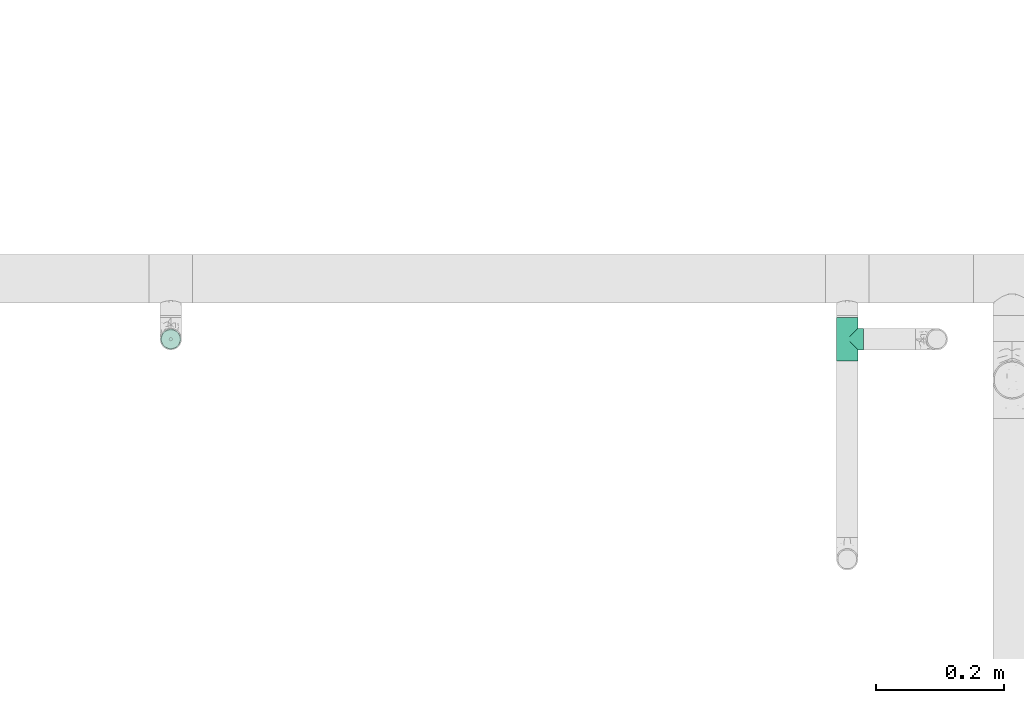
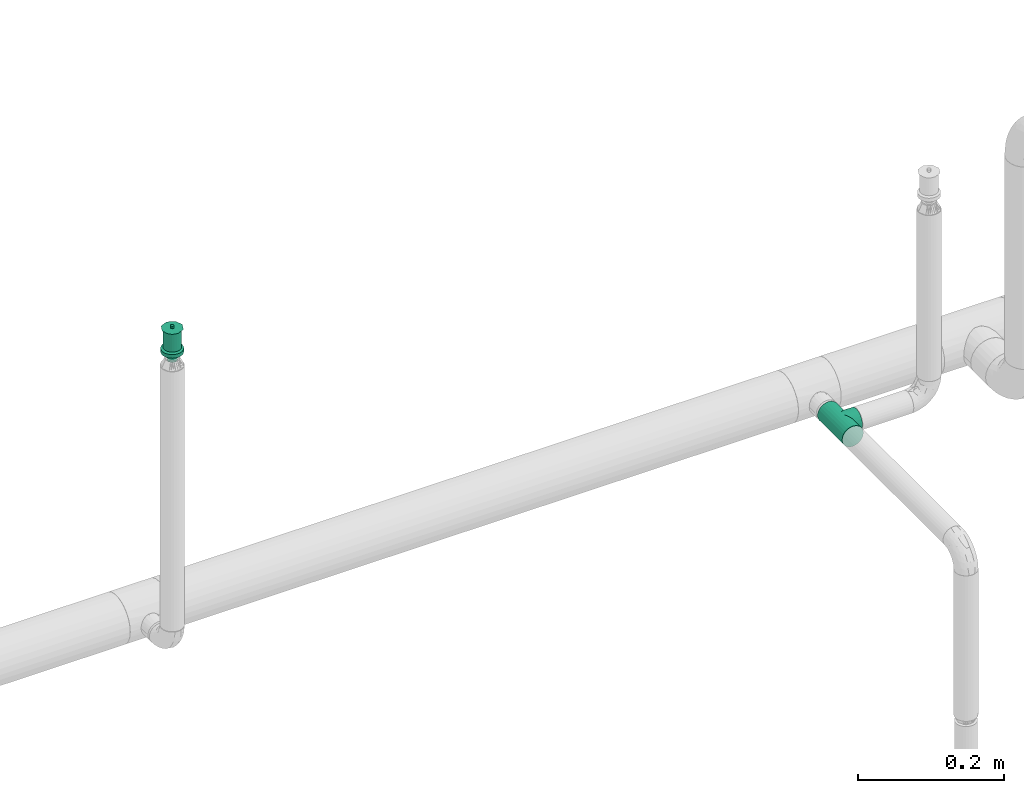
# One storey, part 113 of 157: 1 flow fitting, 1 flow terminal.
"""IFC2X3 building model written with IfcOpenShell, lengths in millimetres."""

from ifc_helpers import new_model, entity, si_unit, converted_unit, derived_unit, direction, frame, origin_with_axes, place, context, subcontext, project, spatial, open_shell, surface_model, source, transform, mapped, type_object, element, save


model = new_model("IFC2X3")

# Units and contexts
model_context = context("Model", 3, precision=0.01, world=frame((0.0, 4.29681676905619e-09, 0.0)), true_north=direction((4.01073788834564e-13, 1.0)))
plan_context = context("Plan", 3, precision=0.01, world=frame((0.0, 4.29681676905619e-09, 0.0)), true_north=direction((4.01073788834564e-13, 1.0)))
body_context = subcontext(model_context, "Body", "Model", "MODEL_VIEW")
ifc_project = project(units=[converted_unit("PLANEANGLEUNIT", "DEGREE", entity("IfcPositiveLengthMeasure", 0.0174532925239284), si_unit("PLANEANGLEUNIT", "RADIAN"), dimensions=[0, 0, 0, 0, 0, 0, 0]), si_unit("AREAUNIT", "SQUARE_METRE"), si_unit("LENGTHUNIT", "METRE", prefix="MILLI"), si_unit("MASSUNIT", "GRAM", prefix="KILO"), si_unit("POWERUNIT", "WATT"), si_unit("PRESSUREUNIT", "PASCAL"), si_unit("FORCEUNIT", "NEWTON", prefix="KILO"), si_unit("ELECTRICCURRENTUNIT", "AMPERE"), si_unit("THERMODYNAMICTEMPERATUREUNIT", "DEGREE_CELSIUS"), si_unit("TIMEUNIT", "SECOND"), si_unit("VOLUMEUNIT", "CUBIC_METRE"), derived_unit("LINEARVELOCITYUNIT", [(si_unit("LENGTHUNIT", "METRE"), 1), (si_unit("TIMEUNIT", "SECOND"), -1)]), derived_unit("VOLUMETRICFLOWRATEUNIT", [(si_unit("VOLUMEUNIT", "CUBIC_METRE"), 1), (si_unit("TIMEUNIT", "SECOND"), -1)]), derived_unit("THERMALTRANSMITTANCEUNIT", [(si_unit("POWERUNIT", "WATT"), 1), (si_unit("THERMODYNAMICTEMPERATUREUNIT", "KELVIN"), -1), (si_unit("AREAUNIT", "SQUARE_METRE"), -1)])], contexts=[model_context, plan_context])

# Site, building, storey
site_placement = place(None, frame((0.0, -4.29681676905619e-09, 0.0), z_axis=(0.0, 0.0, 1.0), x_axis=(1.0, 0.0, 0.0)))
site = spatial("IfcSite", under=ifc_project, at=site_placement, CompositionType="ELEMENT")
building_placement = place(site_placement, frame((0.0, 4.29681676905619e-09, 0.0), z_axis=(0.0, 0.0, 1.0), x_axis=(1.0, 0.0, 0.0)))
building = spatial("IfcBuilding", under=site, at=building_placement, Name="mc-building", CompositionType="ELEMENT")
storey_placement = place(building_placement, frame((0.0, 0.0, 204000.0), z_axis=(0.0, 0.0, 1.0), x_axis=(1.0, 0.0, 0.0)))
storey = spatial("IfcBuildingStorey", under=building, at=storey_placement, Name="Nivå D", CompositionType="ELEMENT", Elevation=204000.0)

# Flow fitting
pipe_fitting_type = type_object("IfcPipeFittingType", Name="magi_pipe_fe_tee_centric_90_NOR", PredefinedType="JUNCTION")
shared_shape_1 = source(origin_with_axes(), body_context, "Body", "SurfaceModel", [
    surface_model("IfcShellBasedSurfaceModel", [(-33.8, 4.37404, -16.32415), (-33.8, 0.0, -16.9), (-33.8, 16.32415, -4.37404), (-33.8, 8.45, -14.63583), (-33.8, 11.9501, -11.9501), (-33.8, 14.63583, -8.45), (-33.8, -16.9, 0.0), (-33.8, -11.9501, -11.9501), (-33.8, -14.63583, -8.45), (-33.8, -8.45, -14.63583), (-33.8, -4.37404, -16.32415), (-33.8, -16.32415, -4.37404), (-33.8, 14.63583, 8.45), (-33.8, 16.32415, 4.37404), (-33.8, -8.45, 14.63583), (-33.8, 8.45, 14.63583), (-33.8, 11.9501, 11.9501), (-33.8, 4.37404, 16.32415), (-33.8, 0.0, 16.9), (-33.8, -11.9501, 11.9501), (-33.8, -14.63583, 8.45), (-33.8, -16.32415, 4.37404), (-33.8, -4.37404, 16.32415), (-33.8, 16.9, 0.0), (33.8, 4.37404, -16.32415), (33.8, -16.9, 0.0), (33.8, 0.0, -16.9), (33.8, 14.63583, -8.45), (33.8, 8.45, -14.63583), (33.8, 16.32415, -4.37404), (33.8, 11.9501, -11.9501), (33.8, -16.32415, 4.37404), (33.8, -8.45, -14.63583), (33.8, -4.37404, -16.32415), (33.8, -11.9501, -11.9501), (33.8, -14.63583, -8.45), (33.8, -16.32415, -4.37404), (33.8, 16.32415, 4.37404), (33.8, 8.45, 14.63583), (33.8, 14.63583, 8.45), (33.8, 11.9501, 11.9501), (33.8, -8.45, 14.63583), (33.8, 4.37404, 16.32415), (33.8, -14.63583, 8.45), (33.8, -11.9501, 11.9501), (33.8, 0.0, 16.9), (33.8, -4.37404, 16.32415), (33.8, 16.9, 0.0), (16.28698, -16.28698, 4.51047), (16.9, -16.9, 0.0), (14.62704, -14.62704, 8.4652), (9.47213, -9.47213, 13.99602), (12.26343, -12.26343, 11.62834), (-16.9, -16.9, 0.0), (-16.28698, -16.28698, 4.51047), (-14.62704, -14.62704, 8.4652), (-12.26343, -12.26343, 11.62834), (-9.47213, -9.47213, 13.99602), (-6.42894, -6.42894, 15.62942), (6.42894, -6.42894, 15.62942), (3.24522, -3.24522, 16.58549), (0.0, 0.0, 16.9), (-3.24522, -3.24522, 16.58549), (3.24522, -3.24522, -16.58549), (0.0, 0.0, -16.9), (-3.24522, -3.24522, -16.58549), (-6.42894, -6.42894, -15.62942), (6.42894, -6.42894, -15.62942), (9.47213, -9.47213, -13.99602), (12.26343, -12.26343, -11.62834), (14.62704, -14.62704, -8.4652), (16.28698, -16.28698, -4.51047), (-9.47213, -9.47213, -13.99602), (-12.26343, -12.26343, -11.62834), (-16.28698, -16.28698, -4.51047), (-14.62704, -14.62704, -8.4652), (4.37404, -25.35, -16.32415), (-16.9, -25.35, 0.0), (0.0, -25.35, -16.9), (14.63583, -25.35, -8.45), (8.45, -25.35, -14.63583), (16.32415, -25.35, -4.37404), (11.9501, -25.35, -11.9501), (-11.9501, -25.35, -11.9501), (-8.45, -25.35, -14.63583), (-4.37404, -25.35, -16.32415), (-14.63583, -25.35, -8.45), (-16.32415, -25.35, -4.37404), (16.9, -25.35, 0.0), (8.45, -25.35, 14.63583), (16.32415, -25.35, 4.37404), (14.63583, -25.35, 8.45), (-8.45, -25.35, 14.63583), (11.9501, -25.35, 11.9501), (4.37404, -25.35, 16.32415), (-16.32415, -25.35, 4.37404), (-11.9501, -25.35, 11.9501), (-14.63583, -25.35, 8.45), (0.0, -25.35, 16.9), (-4.37404, -25.35, 16.32415)], [open_shell([[[0, 1, 2]], [[3, 0, 4]], [[0, 2, 5]], [[4, 0, 5]], [[6, 2, 1]], [[7, 8, 9]], [[1, 10, 9]], [[11, 6, 8]], [[1, 9, 8]], [[1, 8, 6]], [[6, 12, 2]], [[12, 13, 2]], [[14, 12, 6]], [[12, 14, 15]], [[16, 12, 15]], [[17, 15, 18]], [[19, 14, 20]], [[21, 20, 14]], [[22, 18, 14]], [[14, 6, 21]], [[14, 18, 15]], [[23, 2, 13]], [[24, 25, 26]], [[27, 24, 28]], [[27, 29, 24]], [[27, 28, 30]], [[31, 25, 24]], [[26, 32, 33]], [[26, 34, 32]], [[35, 25, 36]], [[35, 34, 26]], [[25, 35, 26]], [[24, 29, 31]], [[29, 37, 38]], [[38, 37, 39]], [[38, 31, 29]], [[38, 39, 40]], [[41, 38, 42]], [[43, 41, 44]], [[41, 43, 31]], [[41, 45, 46]], [[41, 31, 38]], [[42, 45, 41]], [[29, 47, 37]], [[31, 43, 48]], [[25, 31, 49]], [[49, 31, 48]], [[43, 50, 48]], [[44, 41, 51]], [[50, 43, 52]], [[51, 52, 44]], [[52, 43, 44]], [[53, 54, 21]], [[53, 21, 6]], [[21, 54, 20]], [[54, 55, 20]], [[56, 57, 19]], [[19, 20, 56]], [[19, 57, 14]], [[56, 20, 55]], [[14, 57, 58]], [[51, 41, 59]], [[60, 45, 61]], [[59, 46, 60]], [[46, 59, 41]], [[60, 46, 45]], [[61, 45, 42]], [[39, 37, 13]], [[16, 38, 40]], [[12, 40, 39]], [[42, 38, 15]], [[23, 37, 47]], [[62, 61, 18]], [[62, 22, 58]], [[22, 62, 18]], [[58, 22, 14]], [[61, 17, 18]], [[42, 17, 61]], [[15, 17, 42]], [[15, 38, 16]], [[12, 16, 40]], [[13, 12, 39]], [[37, 23, 13]], [[5, 27, 30]], [[23, 47, 29]], [[30, 28, 3]], [[27, 2, 29]], [[26, 33, 63]], [[26, 64, 24]], [[64, 26, 63]], [[28, 24, 0]], [[64, 0, 24]], [[4, 30, 3]], [[2, 27, 5]], [[5, 30, 4]], [[2, 23, 29]], [[65, 66, 10]], [[1, 0, 64]], [[1, 65, 10]], [[66, 9, 10]], [[0, 3, 28]], [[1, 64, 65]], [[63, 33, 67]], [[32, 34, 68]], [[69, 68, 34]], [[35, 70, 69]], [[69, 34, 35]], [[32, 68, 67]], [[36, 25, 49]], [[36, 71, 35]], [[71, 36, 49]], [[35, 71, 70]], [[72, 9, 66]], [[72, 7, 9]], [[7, 72, 73]], [[7, 73, 8]], [[74, 53, 11]], [[75, 74, 8]], [[74, 11, 8]], [[11, 53, 6]], [[75, 8, 73]], [[32, 67, 33]], [[76, 77, 78]], [[79, 76, 80]], [[79, 81, 76]], [[79, 80, 82]], [[77, 76, 81]], [[78, 83, 84]], [[84, 85, 78]], [[86, 77, 87]], [[83, 78, 86]], [[77, 86, 78]], [[81, 88, 77]], [[89, 88, 90]], [[89, 90, 91]], [[92, 77, 89]], [[89, 91, 93]], [[92, 89, 94]], [[95, 96, 97]], [[96, 95, 92]], [[92, 98, 99]], [[95, 77, 92]], [[94, 98, 92]], [[89, 77, 88]], [[77, 95, 53]], [[54, 53, 95]], [[97, 96, 56]], [[96, 92, 57]], [[95, 97, 54]], [[58, 92, 99]], [[55, 54, 97]], [[56, 55, 97]], [[58, 57, 92]], [[98, 61, 62]], [[58, 99, 62]], [[56, 96, 57]], [[62, 99, 98]], [[94, 60, 98]], [[89, 59, 94]], [[91, 90, 48]], [[52, 93, 91]], [[93, 51, 89]], [[49, 90, 88]], [[59, 60, 94]], [[51, 59, 89]], [[49, 48, 90]], [[50, 52, 91]], [[48, 50, 91]], [[51, 93, 52]], [[98, 60, 61]], [[88, 81, 49]], [[71, 49, 81]], [[79, 82, 69]], [[82, 80, 68]], [[81, 79, 71]], [[67, 80, 76]], [[70, 71, 79]], [[69, 70, 79]], [[67, 68, 80]], [[78, 64, 63]], [[67, 76, 63]], [[69, 82, 68]], [[63, 76, 78]], [[85, 65, 78]], [[84, 66, 85]], [[86, 87, 74]], [[86, 73, 83]], [[72, 84, 83]], [[53, 87, 77]], [[66, 65, 85]], [[72, 66, 84]], [[53, 74, 87]], [[75, 73, 86]], [[74, 75, 86]], [[72, 83, 73]], [[78, 65, 64]]])]),
])
flow_fitting_placement = place(storey_placement, frame((527499.97687, 413944.735, 2690.0), z_axis=(0.0, 0.0, 1.0), x_axis=(0.0, 1.0, 0.0)))
element("IfcFlowFitting", 1, at=flow_fitting_placement, inside=storey, type_object=pipe_fitting_type, Name="magi_pipe_fe_tee_centric_90_NOR", context=body_context, shape_type="MappedRepresentation", body=[
    mapped(shared_shape_1, transform((0.0, 0.0, 0.0), scale=1.0)),
])

# Flow terminal
fire_suppression_terminal_type = type_object("IfcFireSuppressionTerminalType", Name="68DGR-STD-STÅENDE", PredefinedType="NOTDEFINED")
shared_shape_2 = source(origin_with_axes(), body_context, "Body", "SurfaceModel", [
    surface_model("IfcShellBasedSurfaceModel", [(3.36465, -12.55704, 51.0), (6.5, -11.25833, 51.0), (9.19239, -9.19239, 51.0), (12.55704, -3.36465, 51.0), (-11.25833, -6.5, 51.0), (11.25833, -6.5, 51.0), (-13.0, 0.0, 51.0), (0.0, -13.0, 51.0), (-6.5, -11.25833, 51.0), (-3.36465, -12.55704, 51.0), (-9.19239, -9.19239, 51.0), (-12.55704, -3.36465, 51.0), (13.0, 0.0, 51.0), (12.55704, 3.36465, 51.0), (11.25833, 6.5, 51.0), (9.19239, 9.19239, 51.0), (6.5, 11.25833, 51.0), (3.36465, 12.55704, 51.0), (0.0, 13.0, 51.0), (-3.36465, 12.55704, 51.0), (-12.55704, 3.36465, 51.0), (-9.19239, 9.19239, 51.0), (-11.25833, 6.5, 51.0), (-6.5, 11.25833, 51.0), (0.0, 13.0, 21.14766), (3.36465, 12.55704, 21.14766), (6.5, 11.25833, 21.14766), (-3.36465, 12.55704, 21.14766), (9.19239, 9.19239, 21.14766), (11.25833, 6.5, 21.14766), (12.55704, 3.36465, 21.14766), (-12.55704, 3.36465, 21.14766), (-11.25833, -6.5, 21.14766), (-9.19239, 9.19239, 21.14766), (-6.5, 11.25833, 21.14766), (-11.25833, 6.5, 21.14766), (-13.0, 0.0, 21.14766), (12.55704, -3.36465, 21.14766), (9.19239, -9.19239, 21.14766), (11.25833, -6.5, 21.14766), (6.5, -11.25833, 21.14766), (3.36465, -12.55704, 21.14766), (-6.5, -11.25833, 21.14766), (-9.19239, -9.19239, 21.14766), (-12.55704, -3.36465, 21.14766), (0.0, -13.0, 21.14766), (-3.36465, -12.55704, 21.14766), (13.0, 0.0, 21.14766), (7.24444, -1.94114, 0.1), (1.94114, -7.24444, 0.1), (3.75, -6.49519, 0.1), (5.3033, -5.3033, 0.1), (-5.3033, -5.3033, 0.1), (6.49519, -3.75, 0.1), (5.3033, 5.3033, 0.1), (0.0, -7.5, 0.1), (-3.75, -6.49519, 0.1), (-1.94114, -7.24444, 0.1), (-7.24444, -1.94114, 0.1), (-6.49519, -3.75, 0.1), (-7.24444, 1.94114, 0.1), (7.5, 0.0, 0.1), (6.49519, 3.75, 0.1), (-6.49519, 3.75, 0.1), (1.94114, 7.24444, 0.1), (0.0, 7.5, 0.1), (3.75, 6.49519, 0.1), (-7.5, 0.0, 0.1), (-5.3033, 5.3033, 0.1), (-1.94114, 7.24444, 0.1), (-3.75, 6.49519, 0.1), (7.24444, 1.94114, 0.1), (1.94114, 7.24444, -0.1), (-6.49519, 3.75, -0.1), (0.0, 7.5, -0.1), (5.3033, 5.3033, -0.1), (3.75, 6.49519, -0.1), (6.49519, 3.75, -0.1), (7.24444, 1.94114, -0.1), (-1.94114, 7.24444, -0.1), (-5.3033, 5.3033, -0.1), (-3.75, 6.49519, -0.1), (-7.24444, 1.94114, -0.1), (-7.24444, -1.94114, -0.1), (-7.5, 0.0, -0.1), (7.5, 0.0, -0.1), (7.24444, -1.94114, -0.1), (-5.3033, -5.3033, -0.1), (1.94114, -7.24444, -0.1), (6.49519, -3.75, -0.1), (5.3033, -5.3033, -0.1), (3.75, -6.49519, -0.1), (-6.49519, -3.75, -0.1), (-3.75, -6.49519, -0.1), (0.0, -7.5, -0.1), (-1.94114, -7.24444, -0.1), (0.0, -2.5, 51.0), (-2.5, 0.0, 51.0), (0.0, 2.5, 51.0), (2.5, 0.0, 51.0), (0.0, -16.0, 53.0), (11.31371, -11.31371, 53.0), (-11.31371, -11.31371, 53.0), (-16.0, 0.0, 53.0), (16.0, 0.0, 53.0), (11.31371, 11.31371, 53.0), (0.0, 16.0, 53.0), (-11.31371, 11.31371, 53.0), (1.25, -2.16506, 57.0), (0.0, -2.5, 57.0), (0.64705, -2.41481, 57.0), (2.41481, -0.64705, 57.0), (1.76777, -1.76777, 57.0), (-2.41481, -0.64705, 57.0), (-2.5, 0.0, 57.0), (2.16506, -1.25, 57.0), (-1.25, -2.16506, 57.0), (-0.64705, -2.41481, 57.0), (-1.76777, -1.76777, 57.0), (-2.16506, -1.25, 57.0), (2.5, 0.0, 57.0), (2.41481, 0.64705, 57.0), (2.16506, 1.25, 57.0), (1.76777, 1.76777, 57.0), (0.64705, 2.41481, 57.0), (1.25, 2.16506, 57.0), (-1.76777, 1.76777, 57.0), (0.0, 2.5, 57.0), (-2.16506, 1.25, 57.0), (-2.41481, 0.64705, 57.0), (-0.64705, 2.41481, 57.0), (-1.25, 2.16506, 57.0), (1.25, 2.16506, 51.0), (1.76777, 1.76777, 51.0), (1.15, 1.99186, 51.0), (0.59528, 2.22163, 51.0), (0.64705, 2.41481, 51.0), (0.0, 2.3, 51.0), (1.62635, 1.62635, 51.0), (2.41481, 0.64705, 51.0), (2.3, 0.0, 51.0), (2.22163, 0.59528, 51.0), (2.16506, 1.25, 51.0), (1.99186, 1.15, 51.0), (-0.59528, 2.22163, 51.0), (-0.64705, 2.41481, 51.0), (-1.15, 1.99186, 51.0), (-1.76777, 1.76777, 51.0), (-1.25, 2.16506, 51.0), (-1.62635, 1.62635, 51.0), (-1.99186, 1.15, 51.0), (-2.16506, 1.25, 51.0), (-2.22163, 0.59528, 51.0), (-2.41481, 0.64705, 51.0), (-2.3, 0.0, 51.0), (2.41481, -0.64705, 51.0), (2.22163, -0.59528, 51.0), (1.99186, -1.15, 51.0), (2.16506, -1.25, 51.0), (1.62635, -1.62635, 51.0), (1.76777, -1.76777, 51.0), (1.25, -2.16506, 51.0), (1.15, -1.99186, 51.0), (0.59528, -2.22163, 51.0), (0.64705, -2.41481, 51.0), (0.0, -2.3, 51.0), (-2.16506, -1.25, 51.0), (-1.99186, -1.15, 51.0), (-1.76777, -1.76777, 51.0), (-1.62635, -1.62635, 51.0), (-2.41481, -0.64705, 51.0), (-2.22163, -0.59528, 51.0), (-0.59528, -2.22163, 51.0), (-0.64705, -2.41481, 51.0), (-1.15, -1.99186, 51.0), (-1.25, -2.16506, 51.0), (1.62635, -1.62635, 56.8), (1.15, -1.99186, 56.8), (0.59528, -2.22163, 56.8), (0.0, -2.3, 56.8), (2.22163, 0.59528, 56.8), (1.99186, -1.15, 56.8), (2.22163, -0.59528, 56.8), (-0.59528, -2.22163, 56.8), (-1.15, -1.99186, 56.8), (-1.62635, -1.62635, 56.8), (-1.99186, -1.15, 56.8), (-2.22163, -0.59528, 56.8), (-1.99186, 1.15, 56.8), (2.3, 0.0, 56.8), (1.62635, 1.62635, 56.8), (1.99186, 1.15, 56.8), (1.15, 1.99186, 56.8), (0.0, 2.3, 56.8), (0.59528, 2.22163, 56.8), (-2.22163, 0.59528, 56.8), (-2.3, 0.0, 56.8), (-1.15, 1.99186, 56.8), (-0.59528, 2.22163, 56.8), (-1.62635, 1.62635, 56.8), (4.1411, -15.45481, 19.0), (8.0, -13.85641, 19.0), (11.31371, -11.31371, 19.0), (-8.0, -13.85641, 19.0), (15.45481, -4.1411, 19.0), (16.0, 0.0, 19.0), (13.85641, -8.0, 19.0), (0.0, -16.0, 19.0), (-4.1411, -15.45481, 19.0), (-13.85641, -8.0, 19.0), (-11.31371, -11.31371, 19.0), (-15.45481, -4.1411, 19.0), (15.45481, 4.1411, 19.0), (13.85641, 8.0, 19.0), (11.31371, 11.31371, 19.0), (-4.1411, 15.45481, 19.0), (8.0, 13.85641, 19.0), (4.1411, 15.45481, 19.0), (0.0, 16.0, 19.0), (-13.85641, 8.0, 19.0), (-15.45481, 4.1411, 19.0), (-16.0, 0.0, 19.0), (-11.31371, 11.31371, 19.0), (-8.0, 13.85641, 19.0), (0.0, 16.0, 13.0), (4.1411, 15.45481, 13.0), (8.0, 13.85641, 13.0), (-4.1411, 15.45481, 13.0), (11.31371, 11.31371, 13.0), (13.85641, 8.0, 13.0), (15.45481, 4.1411, 13.0), (-15.45481, -4.1411, 13.0), (-11.31371, 11.31371, 13.0), (-8.0, 13.85641, 13.0), (-13.85641, 8.0, 13.0), (-15.45481, 4.1411, 13.0), (-16.0, 0.0, 13.0), (4.1411, -15.45481, 13.0), (16.0, 0.0, 13.0), (15.45481, -4.1411, 13.0), (13.85641, -8.0, 13.0), (11.31371, -11.31371, 13.0), (8.0, -13.85641, 13.0), (-8.0, -13.85641, 13.0), (-13.85641, -8.0, 13.0), (-11.31371, -11.31371, 13.0), (0.0, -16.0, 13.0), (-4.1411, -15.45481, 13.0), (7.24444, -1.94114, 13.0), (1.94114, -7.24444, 13.0), (3.75, -6.49519, 13.0), (5.3033, -5.3033, 13.0), (-5.3033, -5.3033, 13.0), (6.49519, -3.75, 13.0), (5.3033, 5.3033, 13.0), (0.0, -7.5, 13.0), (-3.75, -6.49519, 13.0), (-1.94114, -7.24444, 13.0), (-7.24444, -1.94114, 13.0), (-6.49519, -3.75, 13.0), (-7.24444, 1.94114, 13.0), (7.5, 0.0, 13.0), (6.49519, 3.75, 13.0), (-6.49519, 3.75, 13.0), (1.94114, 7.24444, 13.0), (0.0, 7.5, 13.0), (3.75, 6.49519, 13.0), (-7.5, 0.0, 13.0), (-5.3033, 5.3033, 13.0), (-1.94114, 7.24444, 13.0), (-3.75, 6.49519, 13.0), (7.24444, 1.94114, 13.0), (3.75, 6.49519, 0.0), (5.3033, 5.3033, 0.0), (3.65, 6.32199, 0.0), (1.88938, 7.05126, 0.0), (0.0, 7.3, 0.0), (1.94114, 7.24444, 0.0), (0.0, 7.5, 0.0), (5.16188, 5.16188, 0.0), (7.24444, 1.94114, 0.0), (7.3, 0.0, 0.0), (7.05126, 1.88938, 0.0), (7.5, 0.0, 0.0), (6.49519, 3.75, 0.0), (6.32199, 3.65, 0.0), (-1.88938, 7.05126, 0.0), (-1.94114, 7.24444, 0.0), (-3.65, 6.32199, 0.0), (-5.3033, 5.3033, 0.0), (-3.75, 6.49519, 0.0), (-5.16188, 5.16188, 0.0), (-6.32199, 3.65, 0.0), (-6.49519, 3.75, 0.0), (-7.05126, 1.88938, 0.0), (-7.24444, 1.94114, 0.0), (-7.3, 0.0, 0.0), (-7.5, 0.0, 0.0), (7.24444, -1.94114, 0.0), (7.05126, -1.88938, 0.0), (6.32199, -3.65, 0.0), (6.49519, -3.75, 0.0), (5.16188, -5.16188, 0.0), (5.3033, -5.3033, 0.0), (3.75, -6.49519, 0.0), (3.65, -6.32199, 0.0), (1.88938, -7.05126, 0.0), (1.94114, -7.24444, 0.0), (0.0, -7.3, 0.0), (0.0, -7.5, 0.0), (-6.49519, -3.75, 0.0), (-6.32199, -3.65, 0.0), (-5.3033, -5.3033, 0.0), (-5.16188, -5.16188, 0.0), (-7.24444, -1.94114, 0.0), (-7.05126, -1.88938, 0.0), (-1.88938, -7.05126, 0.0), (-1.94114, -7.24444, 0.0), (-3.65, -6.32199, 0.0), (-3.75, -6.49519, 0.0), (1.88938, -7.05126, 12.8), (0.0, -7.3, 12.8), (3.65, -6.32199, 12.8), (5.16188, -5.16188, 12.8), (6.32199, -3.65, 12.8), (7.05126, 1.88938, 12.8), (7.05126, -1.88938, 12.8), (-5.16188, -5.16188, 12.8), (-1.88938, -7.05126, 12.8), (-3.65, -6.32199, 12.8), (-6.32199, -3.65, 12.8), (-7.05126, -1.88938, 12.8), (0.0, 7.3, 12.8), (7.3, 0.0, 12.8), (6.32199, 3.65, 12.8), (5.16188, 5.16188, 12.8), (3.65, 6.32199, 12.8), (1.88938, 7.05126, 12.8), (-6.32199, 3.65, 12.8), (-7.05126, 1.88938, 12.8), (-7.3, 0.0, 12.8), (-3.65, 6.32199, 12.8), (-1.88938, 7.05126, 12.8), (-5.16188, 5.16188, 12.8)], [open_shell([[[0, 1, 2]], [[0, 2, 3]], [[0, 3, 4]], [[3, 2, 5]], [[6, 4, 3]], [[7, 8, 9]], [[7, 0, 8]], [[8, 4, 10]], [[0, 4, 8]], [[4, 6, 11]], [[6, 3, 12]], [[13, 14, 15]], [[6, 13, 15]], [[16, 17, 18]], [[15, 16, 19]], [[18, 19, 16]], [[20, 21, 22]], [[20, 6, 15]], [[21, 19, 23]], [[19, 21, 20]], [[15, 19, 20]], [[13, 6, 12]], [[24, 25, 26]], [[27, 24, 26]], [[28, 29, 30]], [[26, 28, 31]], [[28, 32, 31]], [[27, 33, 34]], [[33, 27, 31]], [[33, 31, 35]], [[27, 26, 31]], [[31, 32, 36]], [[32, 28, 30]], [[32, 30, 37]], [[38, 37, 39]], [[38, 40, 41]], [[38, 41, 37]], [[32, 37, 41]], [[32, 42, 43]], [[44, 36, 32]], [[42, 45, 46]], [[42, 32, 41]], [[45, 42, 41]], [[30, 47, 37]], [[4, 32, 43]], [[8, 42, 46]], [[43, 42, 10]], [[9, 46, 45]], [[36, 11, 6]], [[11, 36, 44]], [[11, 44, 4]], [[44, 32, 4]], [[43, 10, 4]], [[8, 10, 42]], [[46, 9, 8]], [[45, 7, 9]], [[0, 41, 40]], [[38, 1, 40]], [[5, 39, 37]], [[38, 39, 2]], [[3, 37, 47]], [[41, 0, 7]], [[40, 1, 0]], [[38, 2, 1]], [[39, 5, 2]], [[3, 5, 37]], [[47, 12, 3]], [[41, 7, 45]], [[30, 13, 47]], [[29, 14, 30]], [[25, 24, 17]], [[15, 29, 28]], [[30, 14, 13]], [[13, 12, 47]], [[16, 26, 17]], [[16, 15, 28]], [[26, 25, 17]], [[15, 14, 29]], [[28, 26, 16]], [[24, 18, 17]], [[19, 27, 34]], [[33, 23, 34]], [[22, 35, 31]], [[33, 35, 21]], [[20, 31, 36]], [[27, 19, 18]], [[34, 23, 19]], [[33, 21, 23]], [[35, 22, 21]], [[20, 22, 31]], [[36, 6, 20]], [[27, 18, 24]], [[48, 49, 50]], [[48, 50, 51]], [[49, 48, 52]], [[48, 51, 53]], [[54, 52, 48]], [[55, 56, 57]], [[56, 55, 52]], [[52, 58, 59]], [[52, 55, 49]], [[52, 60, 58]], [[54, 48, 61]], [[62, 54, 61]], [[54, 63, 52]], [[64, 65, 54]], [[64, 54, 66]], [[63, 54, 65]], [[63, 60, 52]], [[67, 58, 60]], [[68, 69, 70]], [[69, 68, 63]], [[69, 63, 65]], [[71, 62, 61]], [[72, 73, 74]], [[75, 72, 76]], [[75, 77, 78]], [[72, 75, 73]], [[78, 73, 75]], [[79, 80, 81]], [[80, 79, 73]], [[74, 73, 79]], [[78, 82, 73]], [[82, 83, 84]], [[82, 78, 85]], [[86, 87, 85]], [[88, 86, 89]], [[90, 91, 88]], [[90, 88, 89]], [[87, 86, 88]], [[83, 87, 92]], [[83, 85, 87]], [[93, 94, 95]], [[94, 93, 87]], [[88, 94, 87]], [[85, 83, 82]], [[83, 58, 84]], [[92, 59, 83]], [[56, 87, 93]], [[92, 87, 52]], [[57, 93, 95]], [[83, 59, 58]], [[58, 67, 84]], [[57, 56, 93]], [[52, 87, 56]], [[52, 59, 92]], [[55, 57, 95]], [[95, 94, 55]], [[88, 49, 94]], [[91, 50, 88]], [[53, 90, 89]], [[91, 90, 51]], [[48, 89, 86]], [[91, 51, 50]], [[50, 49, 88]], [[61, 48, 86]], [[53, 89, 48]], [[53, 51, 90]], [[85, 61, 86]], [[94, 49, 55]], [[78, 71, 85]], [[77, 62, 78]], [[66, 75, 76]], [[77, 75, 54]], [[64, 76, 72]], [[78, 62, 71]], [[71, 61, 85]], [[64, 66, 76]], [[54, 75, 66]], [[54, 62, 77]], [[65, 64, 72]], [[72, 74, 65]], [[79, 69, 74]], [[81, 70, 79]], [[63, 80, 73]], [[81, 80, 68]], [[60, 73, 82]], [[81, 68, 70]], [[70, 69, 79]], [[67, 60, 82]], [[63, 73, 60]], [[63, 68, 80]], [[84, 67, 82]], [[74, 69, 65]], [[96, 97, 98]], [[98, 99, 96]], [[100, 101, 102]], [[103, 102, 101]], [[101, 104, 103]], [[104, 105, 106]], [[107, 103, 106]], [[106, 103, 104]], [[99, 98, 105]], [[105, 104, 99]], [[98, 106, 105]], [[98, 107, 106]], [[107, 98, 97]], [[103, 107, 97]], [[97, 96, 102]], [[102, 103, 97]], [[96, 100, 102]], [[96, 101, 100]], [[101, 96, 99]], [[104, 101, 99]], [[108, 109, 110]], [[111, 108, 112]], [[113, 108, 114]], [[111, 112, 115]], [[108, 111, 114]], [[109, 116, 117]], [[116, 109, 118]], [[118, 113, 119]], [[118, 109, 108]], [[108, 113, 118]], [[111, 120, 114]], [[121, 122, 123]], [[114, 121, 123]], [[114, 123, 124]], [[124, 123, 125]], [[126, 124, 127]], [[124, 128, 129]], [[129, 114, 124]], [[126, 130, 131]], [[128, 124, 126]], [[130, 126, 127]], [[121, 114, 120]], [[132, 133, 134]], [[132, 134, 135]], [[136, 135, 137]], [[135, 136, 132]], [[136, 137, 98]], [[134, 133, 138]], [[139, 140, 141]], [[140, 139, 99]], [[139, 141, 142]], [[138, 142, 143]], [[142, 138, 133]], [[143, 142, 141]], [[98, 144, 145]], [[98, 137, 144]], [[145, 144, 146]], [[147, 148, 149]], [[146, 148, 145]], [[149, 148, 146]], [[150, 151, 147]], [[151, 150, 152]], [[150, 147, 149]], [[153, 152, 154]], [[152, 153, 151]], [[153, 154, 97]], [[99, 155, 156]], [[156, 155, 157]], [[157, 158, 159]], [[158, 157, 155]], [[159, 158, 160]], [[160, 161, 162]], [[162, 161, 163]], [[163, 164, 165]], [[164, 163, 161]], [[165, 164, 96]], [[162, 159, 160]], [[166, 167, 168]], [[168, 167, 169]], [[167, 166, 170]], [[97, 171, 170]], [[170, 171, 167]], [[97, 154, 171]], [[172, 96, 173]], [[172, 173, 174]], [[169, 175, 168]], [[175, 169, 174]], [[175, 174, 173]], [[165, 96, 172]], [[156, 140, 99]], [[170, 113, 97]], [[166, 119, 170]], [[116, 168, 175]], [[166, 168, 118]], [[117, 175, 173]], [[170, 119, 113]], [[113, 114, 97]], [[117, 116, 175]], [[118, 168, 116]], [[118, 119, 166]], [[109, 117, 173]], [[173, 96, 109]], [[164, 110, 96]], [[161, 108, 164]], [[115, 160, 158]], [[161, 160, 112]], [[111, 158, 155]], [[161, 112, 108]], [[108, 110, 164]], [[120, 111, 155]], [[115, 158, 111]], [[115, 112, 160]], [[99, 120, 155]], [[96, 110, 109]], [[139, 121, 99]], [[142, 122, 139]], [[125, 133, 132]], [[142, 133, 123]], [[124, 132, 136]], [[139, 122, 121]], [[121, 120, 99]], [[124, 125, 132]], [[123, 133, 125]], [[123, 122, 142]], [[127, 124, 136]], [[136, 98, 127]], [[145, 130, 98]], [[148, 131, 145]], [[128, 147, 151]], [[148, 147, 126]], [[129, 151, 153]], [[148, 126, 131]], [[131, 130, 145]], [[114, 129, 153]], [[128, 151, 129]], [[128, 126, 147]], [[97, 114, 153]], [[98, 130, 127]], [[176, 177, 178]], [[176, 178, 179]], [[180, 176, 179]], [[181, 176, 182]], [[180, 182, 176]], [[183, 184, 179]], [[185, 179, 184]], [[186, 187, 185]], [[185, 187, 188]], [[179, 185, 188]], [[189, 182, 180]], [[190, 191, 180]], [[192, 190, 180]], [[193, 194, 192]], [[180, 193, 192]], [[188, 193, 180]], [[195, 188, 196]], [[196, 188, 187]], [[197, 198, 199]], [[188, 199, 198]], [[188, 198, 193]], [[180, 179, 188]], [[154, 187, 171]], [[171, 186, 167]], [[174, 169, 184]], [[185, 169, 167]], [[172, 174, 183]], [[187, 186, 171]], [[154, 196, 187]], [[174, 184, 183]], [[184, 169, 185]], [[167, 186, 185]], [[172, 183, 179]], [[179, 165, 172]], [[165, 178, 163]], [[163, 177, 162]], [[157, 159, 181]], [[176, 159, 162]], [[156, 157, 182]], [[177, 176, 162]], [[163, 178, 177]], [[156, 182, 189]], [[182, 157, 181]], [[159, 176, 181]], [[156, 189, 140]], [[179, 178, 165]], [[140, 180, 141]], [[141, 191, 143]], [[134, 138, 192]], [[190, 138, 143]], [[135, 134, 194]], [[180, 191, 141]], [[140, 189, 180]], [[134, 192, 194]], [[192, 138, 190]], [[143, 191, 190]], [[135, 194, 193]], [[193, 137, 135]], [[137, 198, 144]], [[144, 197, 146]], [[150, 149, 188]], [[199, 149, 146]], [[152, 150, 195]], [[197, 199, 146]], [[144, 198, 197]], [[152, 195, 196]], [[195, 150, 188]], [[149, 199, 188]], [[152, 196, 154]], [[193, 198, 137]], [[200, 201, 202]], [[203, 200, 202]], [[204, 205, 202]], [[204, 202, 206]], [[203, 202, 205]], [[207, 203, 208]], [[207, 200, 203]], [[203, 209, 210]], [[209, 203, 211]], [[205, 211, 203]], [[205, 212, 211]], [[212, 213, 214]], [[215, 212, 214]], [[216, 217, 218]], [[214, 216, 215]], [[218, 215, 216]], [[211, 219, 220]], [[221, 211, 220]], [[222, 215, 223]], [[215, 222, 219]], [[219, 211, 215]], [[211, 212, 215]], [[224, 225, 226]], [[227, 224, 226]], [[228, 229, 230]], [[227, 226, 228]], [[227, 228, 231]], [[227, 232, 233]], [[232, 227, 234]], [[234, 231, 235]], [[231, 234, 227]], [[235, 231, 236]], [[228, 230, 231]], [[237, 238, 239]], [[237, 239, 240]], [[241, 242, 237]], [[241, 237, 240]], [[238, 237, 243]], [[244, 243, 245]], [[243, 244, 231]], [[243, 246, 247]], [[243, 231, 238]], [[237, 246, 243]], [[238, 231, 230]], [[231, 211, 236]], [[244, 209, 231]], [[203, 245, 243]], [[244, 245, 210]], [[208, 243, 247]], [[231, 209, 211]], [[211, 221, 236]], [[208, 203, 243]], [[210, 245, 203]], [[210, 209, 244]], [[207, 208, 247]], [[247, 246, 207]], [[237, 200, 246]], [[242, 201, 237]], [[206, 241, 240]], [[242, 241, 202]], [[204, 240, 239]], [[242, 202, 201]], [[201, 200, 237]], [[205, 204, 239]], [[206, 240, 204]], [[206, 202, 241]], [[238, 205, 239]], [[246, 200, 207]], [[230, 212, 238]], [[229, 213, 230]], [[216, 228, 226]], [[229, 228, 214]], [[217, 226, 225]], [[230, 213, 212]], [[212, 205, 238]], [[217, 216, 226]], [[214, 228, 216]], [[214, 213, 229]], [[218, 217, 225]], [[225, 224, 218]], [[227, 215, 224]], [[233, 223, 227]], [[219, 232, 234]], [[233, 232, 222]], [[220, 234, 235]], [[233, 222, 223]], [[223, 215, 227]], [[221, 220, 235]], [[219, 234, 220]], [[219, 222, 232]], [[236, 221, 235]], [[224, 215, 218]], [[248, 249, 250]], [[248, 250, 251]], [[249, 248, 252]], [[248, 251, 253]], [[254, 252, 248]], [[255, 256, 257]], [[256, 255, 252]], [[252, 258, 259]], [[252, 255, 249]], [[252, 260, 258]], [[254, 248, 261]], [[262, 254, 261]], [[254, 263, 252]], [[264, 265, 254]], [[264, 254, 266]], [[263, 254, 265]], [[263, 260, 252]], [[267, 258, 260]], [[268, 269, 270]], [[269, 268, 263]], [[269, 263, 265]], [[271, 262, 261]], [[272, 273, 274]], [[272, 274, 275]], [[276, 277, 275]], [[277, 276, 278]], [[275, 277, 272]], [[274, 273, 279]], [[280, 281, 282]], [[281, 280, 283]], [[280, 282, 284]], [[279, 284, 285]], [[284, 279, 273]], [[285, 284, 282]], [[278, 286, 287]], [[287, 286, 288]], [[289, 290, 291]], [[288, 290, 287]], [[288, 291, 290]], [[278, 276, 286]], [[292, 293, 289]], [[293, 292, 294]], [[292, 289, 291]], [[295, 294, 296]], [[294, 295, 293]], [[295, 296, 297]], [[283, 298, 299]], [[299, 298, 300]], [[300, 301, 302]], [[301, 300, 298]], [[302, 301, 303]], [[303, 304, 305]], [[305, 304, 306]], [[306, 307, 308]], [[307, 306, 304]], [[308, 307, 309]], [[305, 302, 303]], [[310, 311, 312]], [[312, 311, 313]], [[311, 310, 314]], [[297, 315, 314]], [[314, 315, 311]], [[297, 296, 315]], [[316, 309, 317]], [[316, 317, 318]], [[313, 319, 312]], [[313, 318, 319]], [[319, 318, 317]], [[308, 309, 316]], [[299, 281, 283]], [[314, 258, 297]], [[310, 259, 314]], [[256, 312, 319]], [[310, 312, 252]], [[257, 319, 317]], [[314, 259, 258]], [[258, 267, 297]], [[257, 256, 319]], [[252, 312, 256]], [[252, 259, 310]], [[255, 257, 317]], [[317, 309, 255]], [[307, 249, 309]], [[304, 250, 307]], [[253, 303, 301]], [[304, 303, 251]], [[248, 301, 298]], [[304, 251, 250]], [[250, 249, 307]], [[261, 248, 298]], [[253, 301, 248]], [[253, 251, 303]], [[283, 261, 298]], [[309, 249, 255]], [[280, 271, 283]], [[284, 262, 280]], [[266, 273, 272]], [[284, 273, 254]], [[264, 272, 277]], [[280, 262, 271]], [[271, 261, 283]], [[264, 266, 272]], [[254, 273, 266]], [[254, 262, 284]], [[265, 264, 277]], [[277, 278, 265]], [[287, 269, 278]], [[290, 270, 287]], [[263, 289, 293]], [[290, 289, 268]], [[260, 293, 295]], [[290, 268, 270]], [[270, 269, 287]], [[267, 260, 295]], [[263, 293, 260]], [[263, 268, 289]], [[297, 267, 295]], [[278, 269, 265]], [[320, 321, 322]], [[323, 322, 324]], [[325, 326, 322]], [[324, 322, 326]], [[322, 327, 325]], [[328, 329, 321]], [[327, 321, 329]], [[330, 331, 327]], [[322, 321, 327]], [[331, 332, 327]], [[326, 325, 333]], [[334, 325, 332]], [[335, 334, 336]], [[332, 337, 336]], [[334, 332, 336]], [[331, 338, 332]], [[339, 338, 340]], [[340, 338, 331]], [[341, 342, 343]], [[332, 338, 343]], [[332, 343, 342]], [[332, 325, 327]], [[296, 331, 315]], [[315, 330, 311]], [[318, 313, 329]], [[327, 313, 311]], [[316, 318, 328]], [[331, 330, 315]], [[296, 340, 331]], [[318, 329, 328]], [[329, 313, 327]], [[311, 330, 327]], [[316, 328, 321]], [[321, 308, 316]], [[308, 320, 306]], [[306, 322, 305]], [[300, 302, 324]], [[323, 302, 305]], [[299, 300, 326]], [[322, 323, 305]], [[306, 320, 322]], [[299, 326, 333]], [[326, 300, 324]], [[302, 323, 324]], [[299, 333, 281]], [[321, 320, 308]], [[281, 325, 282]], [[282, 334, 285]], [[274, 279, 336]], [[335, 279, 285]], [[275, 274, 337]], [[325, 334, 282]], [[281, 333, 325]], [[274, 336, 337]], [[336, 279, 335]], [[285, 334, 335]], [[275, 337, 332]], [[332, 276, 275]], [[276, 342, 286]], [[286, 341, 288]], [[292, 291, 338]], [[343, 291, 288]], [[294, 292, 339]], [[341, 343, 288]], [[286, 342, 341]], [[294, 339, 340]], [[339, 292, 338]], [[291, 343, 338]], [[294, 340, 296]], [[332, 342, 276]]])]),
])
flow_terminal_placement = place(storey_placement, frame((526440.35, 413944.735, 3169.5), z_axis=(0.0, 0.0, 1.0), x_axis=(1.0, 0.0, 0.0)))
element("IfcFlowTerminal", 2, at=flow_terminal_placement, inside=storey, type_object=fire_suppression_terminal_type, Name="68DGR-STD-STÅENDE", context=body_context, shape_type="MappedRepresentation", body=[
    mapped(shared_shape_2, transform((0.0, 0.0, 0.0), scale=1.0)),
])

save(model, "model.ifc")
